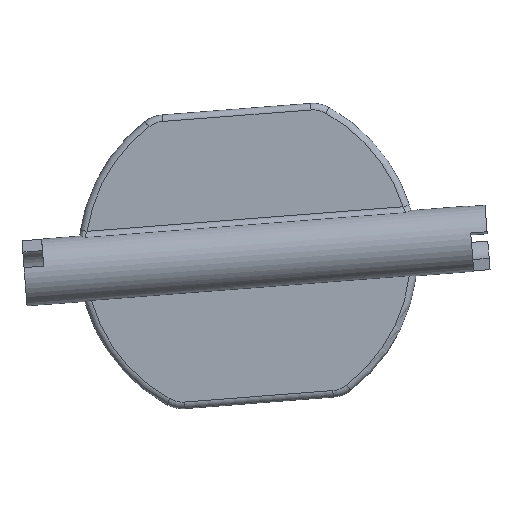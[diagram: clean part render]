
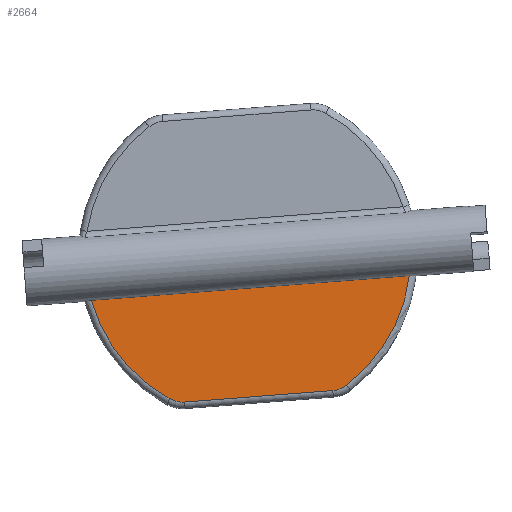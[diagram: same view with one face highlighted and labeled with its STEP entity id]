
A CAD part, front view. The second image highlights one B-rep face of the part: STEP entity #2664.
In plain terms, the highlighted planar face has unit normal (0, -1, 0).
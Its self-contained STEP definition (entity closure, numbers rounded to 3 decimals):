
#751=CARTESIAN_POINT('',(130.8,-1.,-177.556));
#752=DIRECTION('',(0.,1.,0.));
#753=DIRECTION('',(-0.478,0.,-0.878));
#754=AXIS2_PLACEMENT_3D('',#751,#752,#753);
#756=DIRECTION('',(-0.997,0.,-0.077));
#757=VECTOR('',#756,48.684);
#758=CARTESIAN_POINT('',(155.448,-1.,-180.56));
#759=LINE('',#758,#757);
#760=CARTESIAN_POINT('',(130.8,-1.,-177.556));
#761=DIRECTION('',(0.,1.,0.));
#762=DIRECTION('',(0.993,0.,-0.121));
#763=AXIS2_PLACEMENT_3D('',#760,#761,#762);
#765=CARTESIAN_POINT('',(143.457,-1.,-194.1));
#766=DIRECTION('',(0.,1.,0.));
#767=DIRECTION('',(0.608,0.,-0.794));
#768=AXIS2_PLACEMENT_3D('',#765,#766,#767);
#770=DIRECTION('',(-0.997,0.,-0.077));
#771=VECTOR('',#770,22.682);
#772=CARTESIAN_POINT('',(143.766,-1.,-198.088));
#773=LINE('',#772,#771);
#774=CARTESIAN_POINT('',(120.843,-1.,-195.852));
#775=DIRECTION('',(0.,1.,0.));
#776=DIRECTION('',(0.077,0.,-0.997));
#777=AXIS2_PLACEMENT_3D('',#774,#775,#776);
#1368=CARTESIAN_POINT('',(118.931,-1.,-199.366));
#1369=CARTESIAN_POINT('',(106.909,-1.,-184.321));
#1370=VERTEX_POINT('',#1368);
#1371=VERTEX_POINT('',#1369);
#1376=CARTESIAN_POINT('',(121.152,-1.,-199.84));
#1377=VERTEX_POINT('',#1376);
#1378=CARTESIAN_POINT('',(143.766,-1.,-198.088));
#1379=VERTEX_POINT('',#1378);
#1380=CARTESIAN_POINT('',(145.887,-1.,-197.277));
#1381=VERTEX_POINT('',#1380);
#1386=CARTESIAN_POINT('',(155.448,-1.,-180.56));
#1387=VERTEX_POINT('',#1386);
#2645=CARTESIAN_POINT('',(0.,-1.,0.));
#2646=DIRECTION('',(0.,-1.,0.));
#2647=DIRECTION('',(1.,0.,0.));
#2648=AXIS2_PLACEMENT_3D('',#2645,#2646,#2647);
#2649=PLANE('',#2648);
#2651=ORIENTED_EDGE('',*,*,#2650,.T.);
#2653=ORIENTED_EDGE('',*,*,#2652,.F.);
#2655=ORIENTED_EDGE('',*,*,#2654,.T.);
#2657=ORIENTED_EDGE('',*,*,#2656,.T.);
#2659=ORIENTED_EDGE('',*,*,#2658,.T.);
#2661=ORIENTED_EDGE('',*,*,#2660,.T.);
#2662=EDGE_LOOP('',(#2651,#2653,#2655,#2657,#2659,#2661));
#2663=FACE_OUTER_BOUND('',#2662,.F.);
#2664=ADVANCED_FACE('',(#2663),#2649,.T.);
#755=CIRCLE('',#754,24.83);
#764=CIRCLE('',#763,24.83);
#769=CIRCLE('',#768,4.);
#778=CIRCLE('',#777,4.);
#2650=EDGE_CURVE('',#1370,#1371,#755,.T.);
#2652=EDGE_CURVE('',#1387,#1371,#759,.T.);
#2654=EDGE_CURVE('',#1387,#1381,#764,.T.);
#2656=EDGE_CURVE('',#1381,#1379,#769,.T.);
#2658=EDGE_CURVE('',#1379,#1377,#773,.T.);
#2660=EDGE_CURVE('',#1377,#1370,#778,.T.);
